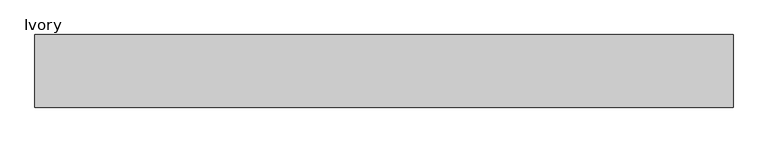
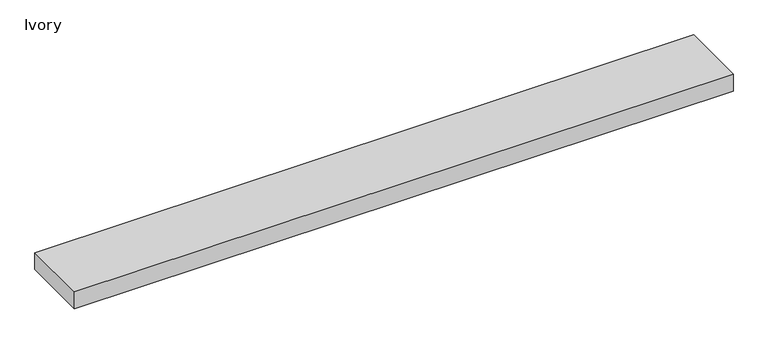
"""IFC4 building model written with IfcOpenShell, lengths in millimetres: proxy geometry, Raceway-5500_Series-Wiremold-Multi_Channel : Ivory."""

from ifc_helpers import new_model, si_unit, origin, origin_with_axes, place, context, project, spatial, polyline, outline, extrude, source, transform, mapped, element, save


def ivory_619f4564(model_context):
    return source(origin(), model_context, "Body", "SweptSolid", [
        extrude(outline(polyline([(1632.7882, 84.9376), (1632.7882, -84.9376), (0.0, -84.9376), (0.0, 84.9376), (1632.7882, 84.9376)])), origin_with_axes(), (0.0, 0.0, 1.0), 44.45),
    ])


if __name__ == "__main__":
    model = new_model("IFC4")
    model_context = context("Model", 3, world=origin())
    ifc_project = project(units=[si_unit("LENGTHUNIT", "METRE", prefix="MILLI")], contexts=[model_context])
    site = spatial("IfcSite", under=ifc_project)
    building = spatial("IfcBuilding", under=site)
    placement = place(None, origin())
    ivory_shape = ivory_619f4564(model_context)
    element("IfcBuildingElementProxy", 1, Name="Raceway-5500_Series-Wiremold-Multi_Channel : Ivory", ObjectType="Raceway-5500_Series-Wiremold-Multi_Channel : Ivory", at=placement, inside=building, context=model_context, shape_type="MappedRepresentation", body=[
        mapped(ivory_shape, transform((0.0, 0.0, 0.0), x_axis=(1.0, 0.0, 0.0), y_axis=(0.0, 1.0, 0.0), z_axis=(0.0, 0.0, 1.0))),
    ])
    save(model, "model.ifc")
